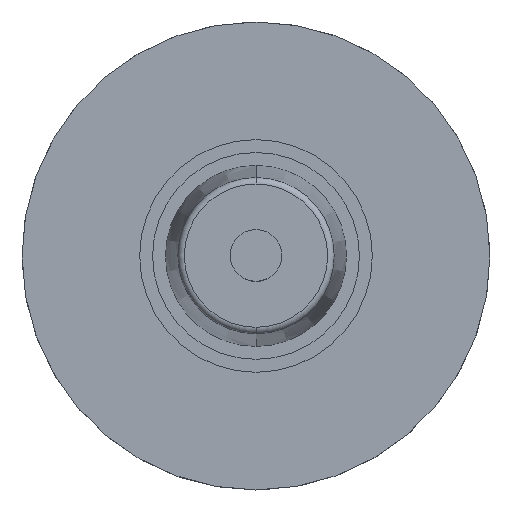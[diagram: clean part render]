
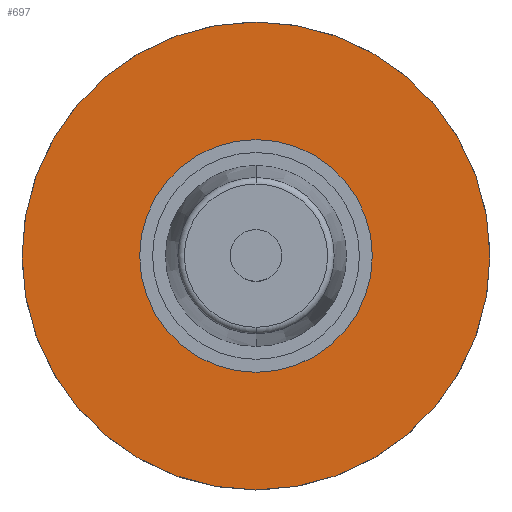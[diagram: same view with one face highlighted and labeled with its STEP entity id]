
A CAD part, top view. The second image highlights one B-rep face of the part: STEP entity #697.
In plain terms, the highlighted planar face has unit normal (0, 0, 1).
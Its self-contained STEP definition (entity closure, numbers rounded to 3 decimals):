
#75 = FACE_OUTER_BOUND ( 'NONE', #768, .T. ) ;
#179 = CARTESIAN_POINT ( 'NONE',  ( -22.006, 3.45, 1.2 ) ) ;
#199 = CARTESIAN_POINT ( 'NONE',  ( -3.906, 3.45, 1.2 ) ) ;
#204 = PLANE ( 'NONE',  #1034 ) ;
#340 = DIRECTION ( 'NONE',  ( -1., 0., 0. ) ) ;
#351 = CIRCLE ( 'NONE', #639, 18.1 ) ;
#380 = AXIS2_PLACEMENT_3D ( 'NONE', #409, #1061, #1166 ) ;
#409 = CARTESIAN_POINT ( 'NONE',  ( -3.906, 3.45, 1.2 ) ) ;
#440 = CIRCLE ( 'NONE', #380, 18.1 ) ;
#639 = AXIS2_PLACEMENT_3D ( 'NONE', #199, #688, #340 ) ;
#641 = EDGE_CURVE ( 'NONE', #1005, #849, #351, .T. ) ;
#688 = DIRECTION ( 'NONE',  ( 0., 0., -1. ) ) ;
#697 = ADVANCED_FACE ( 'NONE', ( #75 ), #204, .F. ) ;
#712 = EDGE_CURVE ( 'NONE', #849, #1005, #440, .T. ) ;
#768 = EDGE_LOOP ( 'NONE', ( #1054, #1132 ) ) ;
#802 = DIRECTION ( 'NONE',  ( 0., 0., -1. ) ) ;
#849 = VERTEX_POINT ( 'NONE', #975 ) ;
#852 = DIRECTION ( 'NONE',  ( -1., 0., 0. ) ) ;
#975 = CARTESIAN_POINT ( 'NONE',  ( 14.194, 3.45, 1.2 ) ) ;
#1005 = VERTEX_POINT ( 'NONE', #179 ) ;
#1014 = CARTESIAN_POINT ( 'NONE',  ( -3.906, 3.45, 1.2 ) ) ;
#1034 = AXIS2_PLACEMENT_3D ( 'NONE', #1014, #802, #852 ) ;
#1054 = ORIENTED_EDGE ( 'NONE', *, *, #712, .F. ) ;
#1061 = DIRECTION ( 'NONE',  ( 0., 0., -1. ) ) ;
#1132 = ORIENTED_EDGE ( 'NONE', *, *, #641, .F. ) ;
#1166 = DIRECTION ( 'NONE',  ( -1., 0., 0. ) ) ;
